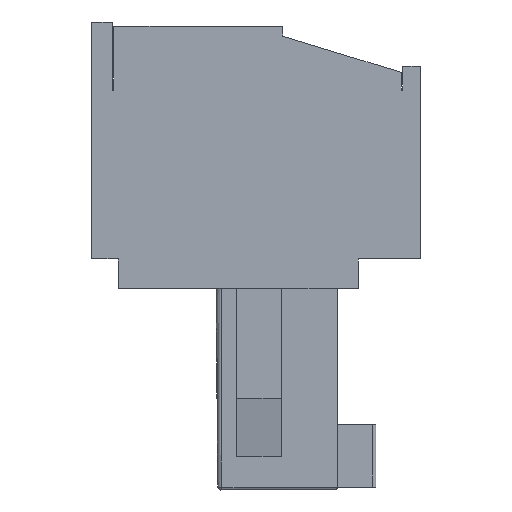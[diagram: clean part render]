
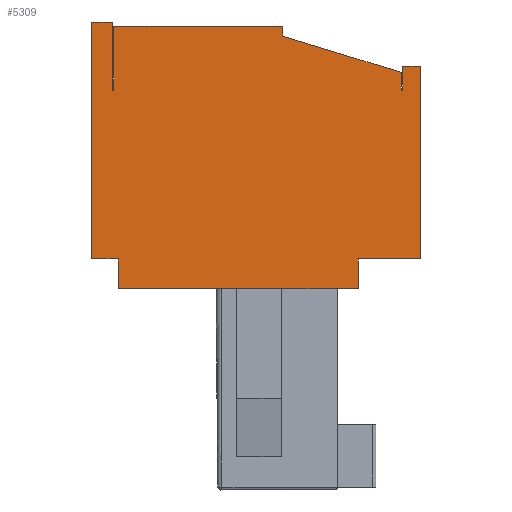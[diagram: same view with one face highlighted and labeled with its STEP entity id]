
A CAD part, left-side view. The second image highlights one B-rep face of the part: STEP entity #5309.
In plain terms, the highlighted planar face has unit normal (-1, 0, 0).
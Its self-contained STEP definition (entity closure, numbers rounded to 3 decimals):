
#1=DIRECTION('',(0.,0.,1.));
#2=VECTOR('',#1,2.15);
#3=CARTESIAN_POINT('',(0.,10.35,-2.3));
#4=LINE('',#3,#2);
#5=DIRECTION('',(0.,-1.,0.));
#6=VECTOR('',#5,5.7);
#7=CARTESIAN_POINT('',(0.,10.35,-0.15));
#8=LINE('',#7,#6);
#9=DIRECTION('',(0.,0.,-1.));
#10=VECTOR('',#9,0.327);
#11=CARTESIAN_POINT('',(0.,4.65,-0.15));
#12=LINE('',#11,#10);
#13=DIRECTION('',(0.,-0.956,-0.292));
#14=VECTOR('',#13,4.183);
#15=CARTESIAN_POINT('',(0.,4.65,-0.477));
#16=LINE('',#15,#14);
#17=DIRECTION('',(0.,0.,-1.));
#18=VECTOR('',#17,0.6);
#19=CARTESIAN_POINT('',(0.,0.65,-1.7));
#20=LINE('',#19,#18);
#25=DIRECTION('',(0.,1.,0.));
#26=VECTOR('',#25,0.05);
#27=CARTESIAN_POINT('',(0.,10.35,-2.3));
#28=LINE('',#27,#26);
#97=DIRECTION('',(0.,0.,1.));
#98=VECTOR('',#97,2.3);
#99=CARTESIAN_POINT('',(0.,10.4,-2.3));
#100=LINE('',#99,#98);
#129=DIRECTION('',(0.,0.,-1.));
#130=VECTOR('',#129,8.);
#131=CARTESIAN_POINT('',(0.,11.1,0.));
#132=LINE('',#131,#130);
#133=DIRECTION('',(0.,-1.,0.));
#134=VECTOR('',#133,0.9);
#135=CARTESIAN_POINT('',(0.,11.1,-8.));
#136=LINE('',#135,#134);
#274=DIRECTION('',(0.,0.,1.));
#275=VECTOR('',#274,6.5);
#276=CARTESIAN_POINT('',(0.,0.,-8.));
#277=LINE('',#276,#275);
#312=DIRECTION('',(0.,1.,0.));
#313=VECTOR('',#312,0.6);
#314=CARTESIAN_POINT('',(0.,0.,-1.5));
#315=LINE('',#314,#313);
#380=DIRECTION('',(0.,0.,-1.));
#381=VECTOR('',#380,0.8);
#382=CARTESIAN_POINT('',(0.,0.6,-1.5));
#383=LINE('',#382,#381);
#472=DIRECTION('',(0.,1.,0.));
#473=VECTOR('',#472,0.05);
#474=CARTESIAN_POINT('',(0.,0.6,-2.3));
#475=LINE('',#474,#473);
#722=DIRECTION('',(0.,1.,0.));
#723=VECTOR('',#722,0.7);
#724=CARTESIAN_POINT('',(0.,10.4,0.));
#725=LINE('',#724,#723);
#858=DIRECTION('',(0.,-1.,0.));
#859=VECTOR('',#858,8.1);
#860=CARTESIAN_POINT('',(0.,10.2,-9.));
#861=LINE('',#860,#859);
#959=DIRECTION('',(0.,0.,-1.));
#960=VECTOR('',#959,1.);
#961=CARTESIAN_POINT('',(0.,10.2,-8.));
#962=LINE('',#961,#960);
#1124=DIRECTION('',(0.,0.,1.));
#1125=VECTOR('',#1124,1.);
#1126=CARTESIAN_POINT('',(0.,2.1,-9.));
#1127=LINE('',#1126,#1125);
#1132=DIRECTION('',(0.,-1.,0.));
#1133=VECTOR('',#1132,2.1);
#1134=CARTESIAN_POINT('',(0.,2.1,-8.));
#1135=LINE('',#1134,#1133);
#4169=CARTESIAN_POINT('',(0.,10.35,-2.3));
#4170=CARTESIAN_POINT('',(0.,10.4,-2.3));
#4171=VERTEX_POINT('',#4169);
#4172=VERTEX_POINT('',#4170);
#4173=CARTESIAN_POINT('',(0.,10.35,-0.15));
#4174=VERTEX_POINT('',#4173);
#4175=CARTESIAN_POINT('',(0.,4.65,-0.15));
#4176=VERTEX_POINT('',#4175);
#4177=CARTESIAN_POINT('',(0.,4.65,-0.477));
#4178=VERTEX_POINT('',#4177);
#4179=CARTESIAN_POINT('',(0.,0.65,-1.7));
#4180=VERTEX_POINT('',#4179);
#4181=CARTESIAN_POINT('',(0.,0.65,-2.3));
#4182=VERTEX_POINT('',#4181);
#4183=CARTESIAN_POINT('',(0.,0.6,-2.3));
#4184=VERTEX_POINT('',#4183);
#4185=CARTESIAN_POINT('',(0.,0.6,-1.5));
#4186=VERTEX_POINT('',#4185);
#4187=CARTESIAN_POINT('',(0.,0.,-1.5));
#4188=VERTEX_POINT('',#4187);
#4189=CARTESIAN_POINT('',(0.,0.,-8.));
#4190=VERTEX_POINT('',#4189);
#4191=CARTESIAN_POINT('',(0.,2.1,-8.));
#4192=VERTEX_POINT('',#4191);
#4193=CARTESIAN_POINT('',(0.,2.1,-9.));
#4194=VERTEX_POINT('',#4193);
#4195=CARTESIAN_POINT('',(0.,10.2,-9.));
#4196=VERTEX_POINT('',#4195);
#4197=CARTESIAN_POINT('',(0.,10.2,-8.));
#4198=VERTEX_POINT('',#4197);
#4199=CARTESIAN_POINT('',(0.,11.1,-8.));
#4200=VERTEX_POINT('',#4199);
#4201=CARTESIAN_POINT('',(0.,11.1,0.));
#4202=VERTEX_POINT('',#4201);
#4203=CARTESIAN_POINT('',(0.,10.4,0.));
#4204=VERTEX_POINT('',#4203);
#5266=CARTESIAN_POINT('',(0.,0.6,-2.3));
#5267=DIRECTION('',(1.,0.,0.));
#5268=DIRECTION('',(0.,-1.,0.));
#5269=AXIS2_PLACEMENT_3D('',#5266,#5267,#5268);
#5270=PLANE('',#5269);
#5272=ORIENTED_EDGE('',*,*,#5271,.F.);
#5274=ORIENTED_EDGE('',*,*,#5273,.T.);
#5276=ORIENTED_EDGE('',*,*,#5275,.T.);
#5278=ORIENTED_EDGE('',*,*,#5277,.T.);
#5280=ORIENTED_EDGE('',*,*,#5279,.T.);
#5282=ORIENTED_EDGE('',*,*,#5281,.T.);
#5284=ORIENTED_EDGE('',*,*,#5283,.F.);
#5286=ORIENTED_EDGE('',*,*,#5285,.F.);
#5288=ORIENTED_EDGE('',*,*,#5287,.F.);
#5290=ORIENTED_EDGE('',*,*,#5289,.F.);
#5292=ORIENTED_EDGE('',*,*,#5291,.F.);
#5294=ORIENTED_EDGE('',*,*,#5293,.F.);
#5296=ORIENTED_EDGE('',*,*,#5295,.F.);
#5298=ORIENTED_EDGE('',*,*,#5297,.F.);
#5300=ORIENTED_EDGE('',*,*,#5299,.F.);
#5302=ORIENTED_EDGE('',*,*,#5301,.F.);
#5304=ORIENTED_EDGE('',*,*,#5303,.F.);
#5306=ORIENTED_EDGE('',*,*,#5305,.F.);
#5307=EDGE_LOOP('',(#5272,#5274,#5276,#5278,#5280,#5282,#5284,#5286,#5288,#5290,
#5292,#5294,#5296,#5298,#5300,#5302,#5304,#5306));
#5308=FACE_OUTER_BOUND('',#5307,.F.);
#5309=ADVANCED_FACE('',(#5308),#5270,.F.);
#5271=EDGE_CURVE('',#4171,#4172,#28,.T.);
#5273=EDGE_CURVE('',#4171,#4174,#4,.T.);
#5275=EDGE_CURVE('',#4174,#4176,#8,.T.);
#5277=EDGE_CURVE('',#4176,#4178,#12,.T.);
#5279=EDGE_CURVE('',#4178,#4180,#16,.T.);
#5281=EDGE_CURVE('',#4180,#4182,#20,.T.);
#5283=EDGE_CURVE('',#4184,#4182,#475,.T.);
#5285=EDGE_CURVE('',#4186,#4184,#383,.T.);
#5287=EDGE_CURVE('',#4188,#4186,#315,.T.);
#5289=EDGE_CURVE('',#4190,#4188,#277,.T.);
#5291=EDGE_CURVE('',#4192,#4190,#1135,.T.);
#5293=EDGE_CURVE('',#4194,#4192,#1127,.T.);
#5295=EDGE_CURVE('',#4196,#4194,#861,.T.);
#5297=EDGE_CURVE('',#4198,#4196,#962,.T.);
#5299=EDGE_CURVE('',#4200,#4198,#136,.T.);
#5301=EDGE_CURVE('',#4202,#4200,#132,.T.);
#5303=EDGE_CURVE('',#4204,#4202,#725,.T.);
#5305=EDGE_CURVE('',#4172,#4204,#100,.T.);
